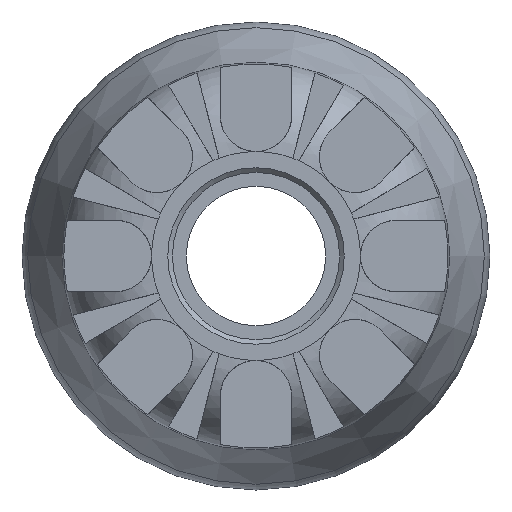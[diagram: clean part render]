
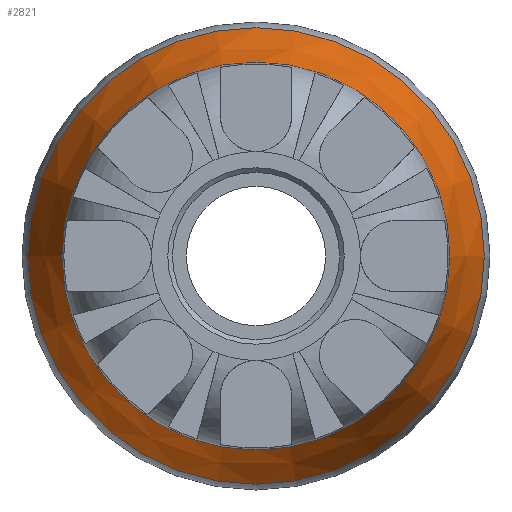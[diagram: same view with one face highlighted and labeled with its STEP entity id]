
A CAD part, left-side view. The second image highlights one B-rep face of the part: STEP entity #2821.
In plain terms, the highlighted conical face has half-angle 20 degrees and reference radius 31.5 mm.
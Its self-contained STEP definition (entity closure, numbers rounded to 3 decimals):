
#596=FACE_BOUND('',#829,.T.);
#640=FACE_OUTER_BOUND('',#828,.T.);
#828=EDGE_LOOP('',(#1964));
#829=EDGE_LOOP('',(#1965));
#1056=CIRCLE('',#3071,34.156);
#1058=CIRCLE('',#3074,28.844);
#1222=VERTEX_POINT('',#4588);
#1224=VERTEX_POINT('',#4593);
#1500=EDGE_CURVE('',#1222,#1222,#1056,.T.);
#1502=EDGE_CURVE('',#1224,#1224,#1058,.T.);
#1964=ORIENTED_EDGE('',*,*,#1502,.F.);
#1965=ORIENTED_EDGE('',*,*,#1500,.F.);
#2613=CONICAL_SURFACE('',#3073,31.5,20.);
#2821=ADVANCED_FACE('',(#640,#596),#2613,.T.);
#3071=AXIS2_PLACEMENT_3D('',#4589,#3519,#3520);
#3073=AXIS2_PLACEMENT_3D('',#4592,#3523,#3524);
#3074=AXIS2_PLACEMENT_3D('',#4594,#3525,#3526);
#3519=DIRECTION('center_axis',(1.,0.,0.));
#3520=DIRECTION('ref_axis',(0.,-1.,0.));
#3523=DIRECTION('center_axis',(1.,0.,0.));
#3524=DIRECTION('ref_axis',(0.,1.,0.));
#3525=DIRECTION('center_axis',(-1.,0.,0.));
#3526=DIRECTION('ref_axis',(0.,-1.,0.));
#4588=CARTESIAN_POINT('',(36.36,34.156,0.));
#4589=CARTESIAN_POINT('Origin',(36.36,0.,0.));
#4592=CARTESIAN_POINT('Origin',(29.064,0.,0.));
#4593=CARTESIAN_POINT('',(21.767,28.844,0.));
#4594=CARTESIAN_POINT('Origin',(21.767,0.,0.));
